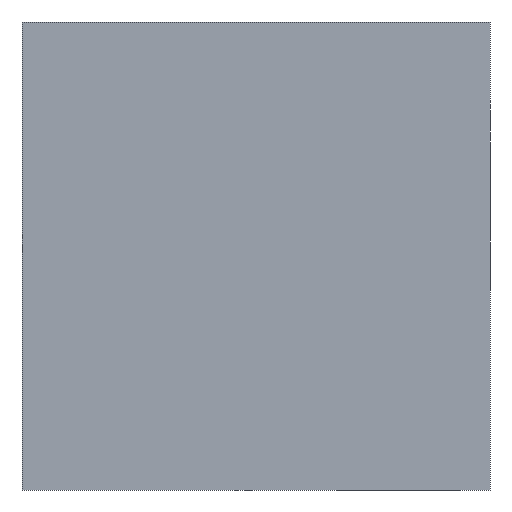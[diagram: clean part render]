
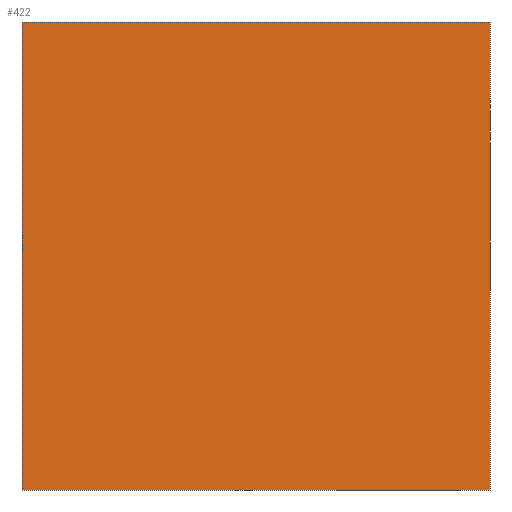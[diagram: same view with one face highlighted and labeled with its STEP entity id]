
A CAD part, front view. The second image highlights one B-rep face of the part: STEP entity #422.
In plain terms, the highlighted planar face has unit normal (0, -1, 0).
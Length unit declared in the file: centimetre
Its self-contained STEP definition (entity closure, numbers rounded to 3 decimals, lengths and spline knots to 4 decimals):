
#38 = EDGE_CURVE ( 'NONE', #699, #252, #326, .T. ) ;
#118 = EDGE_CURVE ( 'NONE', #252, #713, #269, .T. ) ;
#125 = VECTOR ( 'NONE', #678, 100. ) ;
#164 = CARTESIAN_POINT ( 'NONE',  ( 1000., 0., 1000. ) ) ;
#177 = CARTESIAN_POINT ( 'NONE',  ( 1000., 0., 0. ) ) ;
#193 = VECTOR ( 'NONE', #220, 100. ) ;
#216 = VECTOR ( 'NONE', #390, 100. ) ;
#220 = DIRECTION ( 'NONE',  ( 1., 0., 0. ) ) ;
#252 = VERTEX_POINT ( 'NONE', #338 ) ;
#259 = AXIS2_PLACEMENT_3D ( 'NONE', #520, #413, #524 ) ;
#264 = ORIENTED_EDGE ( 'NONE', *, *, #672, .T. ) ;
#269 = LINE ( 'NONE', #164, #722 ) ;
#296 = PLANE ( 'NONE',  #259 ) ;
#326 = LINE ( 'NONE', #553, #193 ) ;
#338 = CARTESIAN_POINT ( 'NONE',  ( 1000., 0., 1000. ) ) ;
#383 = DIRECTION ( 'NONE',  ( 0., 0., -1. ) ) ;
#390 = DIRECTION ( 'NONE',  ( 0., 0., -1. ) ) ;
#400 = LINE ( 'NONE', #560, #216 ) ;
#413 = DIRECTION ( 'NONE',  ( 0., 1., 0. ) ) ;
#422 = ADVANCED_FACE ( 'NONE', ( #578 ), #296, .F. ) ;
#516 = CARTESIAN_POINT ( 'NONE',  ( 0., 0., 1000. ) ) ;
#520 = CARTESIAN_POINT ( 'NONE',  ( 0., 0., 1000. ) ) ;
#524 = DIRECTION ( 'NONE',  ( 0., 0., 1. ) ) ;
#530 = CARTESIAN_POINT ( 'NONE',  ( 0., 0., 0. ) ) ;
#540 = ORIENTED_EDGE ( 'NONE', *, *, #38, .F. ) ;
#549 = VERTEX_POINT ( 'NONE', #530 ) ;
#553 = CARTESIAN_POINT ( 'NONE',  ( 0., 0., 1000. ) ) ;
#560 = CARTESIAN_POINT ( 'NONE',  ( 0., 0., 1000. ) ) ;
#571 = EDGE_LOOP ( 'NONE', ( #264, #632, #540, #683 ) ) ;
#578 = FACE_OUTER_BOUND ( 'NONE', #571, .T. ) ;
#616 = LINE ( 'NONE', #674, #125 ) ;
#621 = EDGE_CURVE ( 'NONE', #699, #549, #400, .T. ) ;
#632 = ORIENTED_EDGE ( 'NONE', *, *, #118, .F. ) ;
#672 = EDGE_CURVE ( 'NONE', #549, #713, #616, .T. ) ;
#674 = CARTESIAN_POINT ( 'NONE',  ( 0., 0., 0. ) ) ;
#678 = DIRECTION ( 'NONE',  ( 1., 0., 0. ) ) ;
#683 = ORIENTED_EDGE ( 'NONE', *, *, #621, .T. ) ;
#699 = VERTEX_POINT ( 'NONE', #516 ) ;
#713 = VERTEX_POINT ( 'NONE', #177 ) ;
#722 = VECTOR ( 'NONE', #383, 100. ) ;
